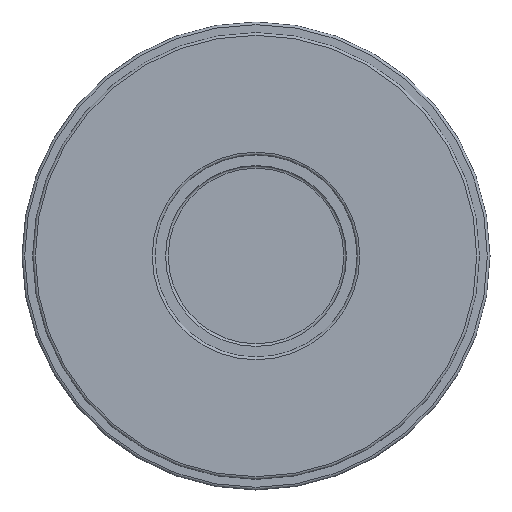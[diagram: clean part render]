
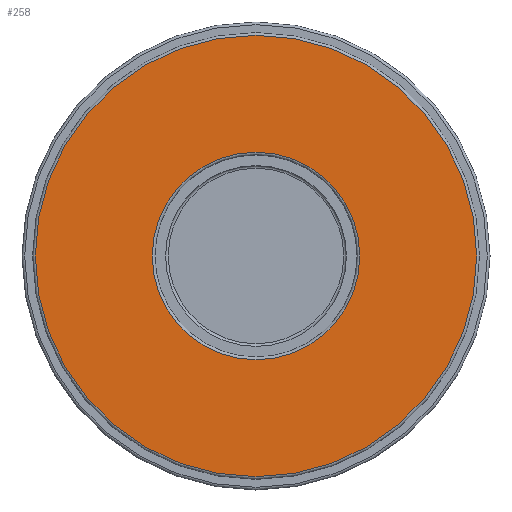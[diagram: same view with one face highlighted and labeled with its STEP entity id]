
A CAD part, front view. The second image highlights one B-rep face of the part: STEP entity #258.
In plain terms, the highlighted planar face has unit normal (0, -1, 0).
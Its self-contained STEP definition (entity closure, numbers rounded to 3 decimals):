
#258=ADVANCED_FACE('',(#4046,#4048),#4050,.T.);
#4046=FACE_BOUND('',#4047,.T.);
#4047=EDGE_LOOP('',(#4870,#4871));
#4048=FACE_BOUND('',#4049,.T.);
#4049=EDGE_LOOP('',(#4872,#4873));
#4050=PLANE('',#4051);
#4051=AXIS2_PLACEMENT_3D('',#4052,#4053,#4054);
#4052=CARTESIAN_POINT('',(0.,-18.,0.));
#4053=DIRECTION('',(0.,-1.,0.));
#4054=DIRECTION('',(0.,0.,1.));
#4870=ORIENTED_EDGE('',*,*,#5265,.F.);
#4871=ORIENTED_EDGE('',*,*,#5264,.F.);
#4872=ORIENTED_EDGE('',*,*,#5266,.T.);
#4873=ORIENTED_EDGE('',*,*,#5267,.T.);
#5264=EDGE_CURVE('',#5827,#5828,#5829,.T.);
#5265=EDGE_CURVE('',#5828,#5827,#5830,.T.);
#5266=EDGE_CURVE('',#5831,#5832,#5833,.T.);
#5267=EDGE_CURVE('',#5832,#5831,#5834,.T.);
#5827=VERTEX_POINT('',#9707);
#5828=VERTEX_POINT('',#9708);
#5829=CIRCLE('',#9709,41.5);
#5830=CIRCLE('',#9713,41.5);
#5831=VERTEX_POINT('',#9717);
#5832=VERTEX_POINT('',#9718);
#5833=CIRCLE('',#9719,19.5);
#5834=CIRCLE('',#9723,19.5);
#9707=CARTESIAN_POINT('',(0.,-18.,41.5));
#9708=CARTESIAN_POINT('',(0.,-18.,-41.5));
#9709=AXIS2_PLACEMENT_3D('',#9710,#9711,#9712);
#9710=CARTESIAN_POINT('',(0.,-18.,0.));
#9711=DIRECTION('',(0.,1.,0.));
#9712=DIRECTION('',(0.,0.,1.));
#9713=AXIS2_PLACEMENT_3D('',#9714,#9715,#9716);
#9714=CARTESIAN_POINT('',(0.,-18.,0.));
#9715=DIRECTION('',(0.,1.,0.));
#9716=DIRECTION('',(0.,0.,-1.));
#9717=CARTESIAN_POINT('',(0.,-18.,19.5));
#9718=CARTESIAN_POINT('',(0.,-18.,-19.5));
#9719=AXIS2_PLACEMENT_3D('',#9720,#9721,#9722);
#9720=CARTESIAN_POINT('',(0.,-18.,0.));
#9721=DIRECTION('',(0.,1.,0.));
#9722=DIRECTION('',(0.,0.,1.));
#9723=AXIS2_PLACEMENT_3D('',#9724,#9725,#9726);
#9724=CARTESIAN_POINT('',(0.,-18.,0.));
#9725=DIRECTION('',(0.,1.,0.));
#9726=DIRECTION('',(0.,0.,-1.));
